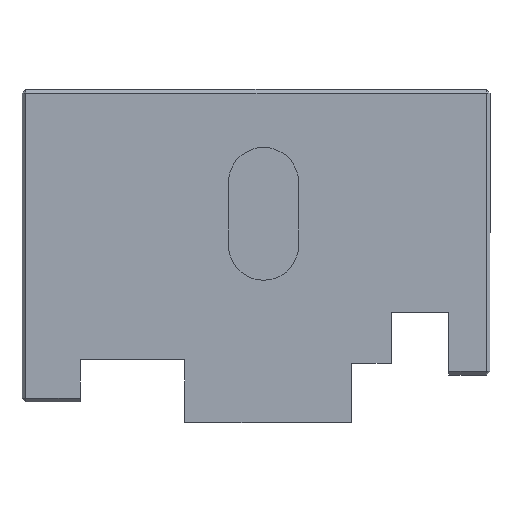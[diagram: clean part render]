
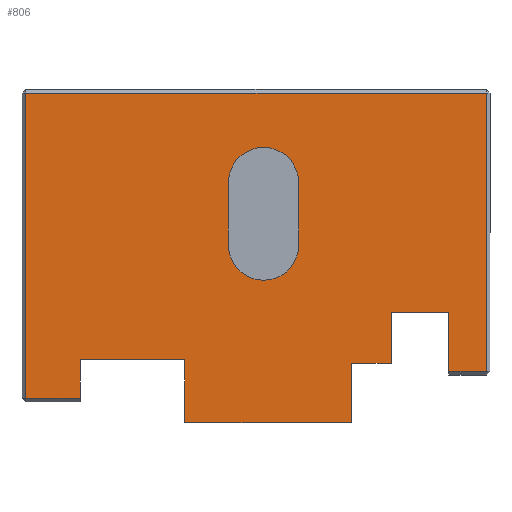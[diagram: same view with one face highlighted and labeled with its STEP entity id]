
A CAD part, left-side view. The second image highlights one B-rep face of the part: STEP entity #806.
In plain terms, the highlighted planar face has unit normal (-1, 0, 0).
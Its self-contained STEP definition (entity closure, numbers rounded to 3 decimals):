
#20=FACE_BOUND('',#126,.T.);
#23=CIRCLE('',#839,9.361);
#25=CIRCLE('',#843,9.361);
#76=FACE_OUTER_BOUND('',#125,.T.);
#125=EDGE_LOOP('',(#697,#698,#699,#700,#701,#702,#703,#704,#705,#706,#707,
#708,#709,#710));
#126=EDGE_LOOP('',(#711,#712,#713,#714));
#143=LINE('',#1117,#243);
#156=LINE('',#1146,#256);
#159=LINE('',#1150,#259);
#163=LINE('',#1156,#263);
#175=LINE('',#1177,#275);
#197=LINE('',#1232,#297);
#201=LINE('',#1243,#301);
#210=LINE('',#1266,#310);
#211=LINE('',#1269,#311);
#213=LINE('',#1273,#313);
#215=LINE('',#1277,#315);
#217=LINE('',#1281,#317);
#219=LINE('',#1285,#319);
#221=LINE('',#1289,#321);
#223=LINE('',#1293,#323);
#225=LINE('',#1296,#325);
#243=VECTOR('',#895,10.);
#256=VECTOR('',#918,10.);
#259=VECTOR('',#923,10.);
#263=VECTOR('',#931,10.);
#275=VECTOR('',#953,10.);
#297=VECTOR('',#1003,10.);
#301=VECTOR('',#1015,10.);
#310=VECTOR('',#1042,10.);
#311=VECTOR('',#1045,10.);
#313=VECTOR('',#1049,10.);
#315=VECTOR('',#1053,10.);
#317=VECTOR('',#1057,10.);
#319=VECTOR('',#1061,10.);
#321=VECTOR('',#1065,10.);
#323=VECTOR('',#1069,10.);
#325=VECTOR('',#1073,10.);
#335=VERTEX_POINT('',#1098);
#339=VERTEX_POINT('',#1109);
#347=VERTEX_POINT('',#1132);
#350=VERTEX_POINT('',#1139);
#352=VERTEX_POINT('',#1144);
#355=VERTEX_POINT('',#1173);
#371=VERTEX_POINT('',#1222);
#372=VERTEX_POINT('',#1223);
#375=VERTEX_POINT('',#1231);
#377=VERTEX_POINT('',#1237);
#383=VERTEX_POINT('',#1264);
#384=VERTEX_POINT('',#1268);
#385=VERTEX_POINT('',#1272);
#386=VERTEX_POINT('',#1276);
#387=VERTEX_POINT('',#1280);
#388=VERTEX_POINT('',#1284);
#389=VERTEX_POINT('',#1288);
#390=VERTEX_POINT('',#1292);
#407=EDGE_CURVE('',#339,#335,#143,.T.);
#420=EDGE_CURVE('',#352,#350,#156,.T.);
#423=EDGE_CURVE('',#350,#347,#159,.T.);
#427=EDGE_CURVE('',#347,#339,#163,.T.);
#439=EDGE_CURVE('',#335,#355,#175,.T.);
#461=EDGE_CURVE('',#371,#372,#23,.T.);
#465=EDGE_CURVE('',#372,#375,#197,.T.);
#468=EDGE_CURVE('',#375,#377,#25,.T.);
#471=EDGE_CURVE('',#377,#371,#201,.T.);
#482=EDGE_CURVE('',#383,#352,#210,.T.);
#483=EDGE_CURVE('',#384,#383,#211,.T.);
#485=EDGE_CURVE('',#385,#384,#213,.T.);
#487=EDGE_CURVE('',#386,#385,#215,.T.);
#489=EDGE_CURVE('',#387,#386,#217,.T.);
#491=EDGE_CURVE('',#388,#387,#219,.T.);
#493=EDGE_CURVE('',#389,#388,#221,.T.);
#495=EDGE_CURVE('',#390,#389,#223,.T.);
#497=EDGE_CURVE('',#355,#390,#225,.T.);
#697=ORIENTED_EDGE('',*,*,#420,.F.);
#698=ORIENTED_EDGE('',*,*,#482,.F.);
#699=ORIENTED_EDGE('',*,*,#483,.F.);
#700=ORIENTED_EDGE('',*,*,#485,.F.);
#701=ORIENTED_EDGE('',*,*,#487,.F.);
#702=ORIENTED_EDGE('',*,*,#489,.F.);
#703=ORIENTED_EDGE('',*,*,#491,.F.);
#704=ORIENTED_EDGE('',*,*,#493,.F.);
#705=ORIENTED_EDGE('',*,*,#495,.F.);
#706=ORIENTED_EDGE('',*,*,#497,.F.);
#707=ORIENTED_EDGE('',*,*,#439,.F.);
#708=ORIENTED_EDGE('',*,*,#407,.F.);
#709=ORIENTED_EDGE('',*,*,#427,.F.);
#710=ORIENTED_EDGE('',*,*,#423,.F.);
#711=ORIENTED_EDGE('',*,*,#461,.T.);
#712=ORIENTED_EDGE('',*,*,#465,.T.);
#713=ORIENTED_EDGE('',*,*,#468,.T.);
#714=ORIENTED_EDGE('',*,*,#471,.T.);
#758=PLANE('',#864);
#806=ADVANCED_FACE('',(#76,#20),#758,.F.);
#839=AXIS2_PLACEMENT_3D('',#1224,#995,#996);
#843=AXIS2_PLACEMENT_3D('',#1238,#1008,#1009);
#864=AXIS2_PLACEMENT_3D('',#1299,#1077,#1078);
#895=DIRECTION('',(0.,0.,-1.));
#918=DIRECTION('',(0.,1.,0.));
#923=DIRECTION('',(0.,0.,1.));
#931=DIRECTION('',(0.,-1.,0.));
#953=DIRECTION('',(0.,1.,0.));
#995=DIRECTION('center_axis',(1.,0.,0.));
#996=DIRECTION('ref_axis',(0.,-1.,0.));
#1003=DIRECTION('',(0.,0.,-1.));
#1008=DIRECTION('center_axis',(1.,0.,0.));
#1009=DIRECTION('ref_axis',(0.,1.,0.));
#1015=DIRECTION('',(0.,0.,1.));
#1042=DIRECTION('',(0.,0.,-1.));
#1045=DIRECTION('',(0.,1.,0.));
#1049=DIRECTION('',(0.,0.,1.));
#1053=DIRECTION('',(0.,1.,0.));
#1057=DIRECTION('',(0.,0.,-1.));
#1061=DIRECTION('',(0.,1.,0.));
#1065=DIRECTION('',(0.,0.,-1.));
#1069=DIRECTION('',(0.,1.,0.));
#1073=DIRECTION('',(0.,0.,1.));
#1077=DIRECTION('center_axis',(1.,0.,0.));
#1078=DIRECTION('ref_axis',(0.,0.,-1.));
#1098=CARTESIAN_POINT('',(0.,1.,-75.333));
#1109=CARTESIAN_POINT('',(0.,1.,-1.));
#1117=CARTESIAN_POINT('',(0.,1.,-22.482));
#1132=CARTESIAN_POINT('',(0.,124.,-1.));
#1139=CARTESIAN_POINT('',(0.,124.,-82.486));
#1144=CARTESIAN_POINT('',(0.,109.464,-82.486));
#1146=CARTESIAN_POINT('',(0.,85.496,-82.486));
#1150=CARTESIAN_POINT('',(0.,124.,-64.225));
#1156=CARTESIAN_POINT('',(0.,93.264,-1.));
#1173=CARTESIAN_POINT('',(0.,10.98,-75.333));
#1177=CARTESIAN_POINT('',(0.,30.764,-75.333));
#1222=CARTESIAN_POINT('',(0.,69.845,-24.862));
#1223=CARTESIAN_POINT('',(0.,51.123,-24.862));
#1224=CARTESIAN_POINT('Origin',(0.,60.484,-24.862));
#1231=CARTESIAN_POINT('',(0.,51.123,-41.61));
#1232=CARTESIAN_POINT('',(0.,51.123,-43.287));
#1237=CARTESIAN_POINT('',(0.,69.845,-41.61));
#1238=CARTESIAN_POINT('Origin',(0.,60.484,-41.61));
#1243=CARTESIAN_POINT('',(0.,69.845,-34.913));
#1264=CARTESIAN_POINT('',(0.,109.464,-72.199));
#1266=CARTESIAN_POINT('',(0.,109.464,-72.199));
#1268=CARTESIAN_POINT('',(0.,81.529,-72.199));
#1269=CARTESIAN_POINT('',(0.,81.529,-72.199));
#1272=CARTESIAN_POINT('',(0.,81.529,-89.));
#1273=CARTESIAN_POINT('',(0.,81.529,-89.));
#1276=CARTESIAN_POINT('',(0.,37.,-89.));
#1277=CARTESIAN_POINT('',(0.,37.,-89.));
#1280=CARTESIAN_POINT('',(0.,37.,-73.154));
#1281=CARTESIAN_POINT('',(0.,37.,-73.154));
#1284=CARTESIAN_POINT('',(0.,26.357,-73.154));
#1285=CARTESIAN_POINT('',(0.,26.357,-73.154));
#1288=CARTESIAN_POINT('',(0.,26.357,-59.47));
#1289=CARTESIAN_POINT('',(0.,26.357,-59.47));
#1292=CARTESIAN_POINT('',(0.,10.98,-59.47));
#1293=CARTESIAN_POINT('',(0.,10.98,-59.47));
#1296=CARTESIAN_POINT('',(0.,10.98,-76.333));
#1299=CARTESIAN_POINT('Origin',(0.,61.528,-44.965));
